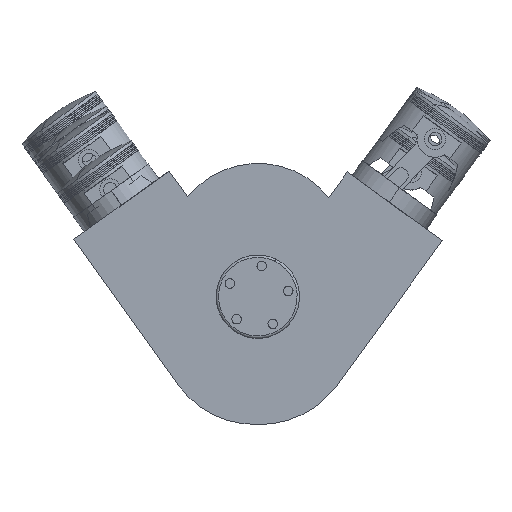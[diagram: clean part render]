
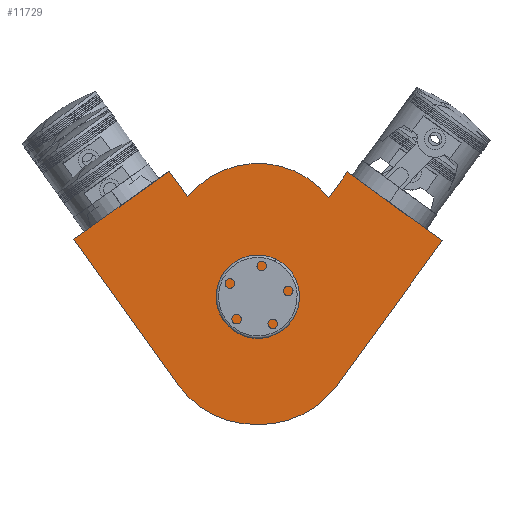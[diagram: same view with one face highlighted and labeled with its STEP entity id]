
A CAD part, front view. The second image highlights one B-rep face of the part: STEP entity #11729.
In plain terms, the highlighted planar face has unit normal (0, -1, 0).
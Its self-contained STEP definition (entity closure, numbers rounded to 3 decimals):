
#10307=CARTESIAN_POINT('Vertex',(111.441,-86.,154.597)) ;
#10312=CARTESIAN_POINT('Line Origine',(140.248,-86.,114.711)) ;
#10316=CARTESIAN_POINT('Vertex',(169.055,-86.,74.824)) ;
#11381=CARTESIAN_POINT('Vertex',(83.97,-86.,0.)) ;
#11384=CARTESIAN_POINT('Axis2P3D Location',(63.97,-86.,0.)) ;
#11388=CARTESIAN_POINT('Vertex',(43.97,-86.,0.)) ;
#11408=CARTESIAN_POINT('Axis2P3D Location',(63.97,-86.,0.)) ;
#11429=CARTESIAN_POINT('Vertex',(169.055,-86.,-74.824)) ;
#11434=CARTESIAN_POINT('Line Origine',(140.248,-86.,-114.711)) ;
#11438=CARTESIAN_POINT('Vertex',(111.441,-86.,-154.597)) ;
#11527=CARTESIAN_POINT('Vertex',(147.424,-86.,-59.202)) ;
#11532=CARTESIAN_POINT('Line Origine',(158.24,-86.,-67.013)) ;
#11558=CARTESIAN_POINT('Vertex',(147.424,-86.,59.202)) ;
#11563=CARTESIAN_POINT('Axis2P3D Location',(99.784,-86.,0.)) ;
#11585=CARTESIAN_POINT('Line Origine',(158.24,-86.,67.013)) ;
#11607=CARTESIAN_POINT('Line Origine',(50.64,-86.,-110.686)) ;
#11611=CARTESIAN_POINT('Vertex',(-10.161,-86.,-66.774)) ;
#11682=CARTESIAN_POINT('Vertex',(-10.161,-86.,66.774)) ;
#11685=CARTESIAN_POINT('Line Origine',(50.64,-86.,110.686)) ;
#11697=CARTESIAN_POINT('Axis2P3D Location',(0.,-86.,0.)) ;
#11702=CARTESIAN_POINT('Axis2P3D Location',(36.678,-86.,-1.919)) ;
#11706=CARTESIAN_POINT('Vertex',(-43.299,-86.,0.)) ;
#11709=CARTESIAN_POINT('Axis2P3D Location',(36.678,-86.,1.919)) ;
#10313=DIRECTION('Vector Direction',(0.585,0.,-0.811)) ;
#11385=DIRECTION('Axis2P3D Direction',(0.,1.,0.)) ;
#11409=DIRECTION('Axis2P3D Direction',(0.,1.,0.)) ;
#11435=DIRECTION('Vector Direction',(0.585,0.,0.811)) ;
#11533=DIRECTION('Vector Direction',(-0.811,0.,0.585)) ;
#11564=DIRECTION('Axis2P3D Direction',(0.,1.,0.)) ;
#11586=DIRECTION('Vector Direction',(-0.811,0.,-0.585)) ;
#11608=DIRECTION('Vector Direction',(0.811,0.,-0.585)) ;
#11686=DIRECTION('Vector Direction',(0.811,0.,0.585)) ;
#11698=DIRECTION('Axis2P3D Direction',(0.,1.,-0.)) ;
#11699=DIRECTION('Axis2P3D XDirection',(-1.,0.,0.)) ;
#11703=DIRECTION('Axis2P3D Direction',(0.,1.,-0.)) ;
#11710=DIRECTION('Axis2P3D Direction',(0.,1.,-0.)) ;
#11386=AXIS2_PLACEMENT_3D('Circle Axis2P3D',#11384,#11385,$) ;
#11410=AXIS2_PLACEMENT_3D('Circle Axis2P3D',#11408,#11409,$) ;
#11565=AXIS2_PLACEMENT_3D('Circle Axis2P3D',#11563,#11564,$) ;
#11700=AXIS2_PLACEMENT_3D('Plane Axis2P3D',#11697,#11698,#11699) ;
#11704=AXIS2_PLACEMENT_3D('Circle Axis2P3D',#11702,#11703,$) ;
#11711=AXIS2_PLACEMENT_3D('Circle Axis2P3D',#11709,#11710,$) ;
#11715=ORIENTED_EDGE('',*,*,#11708,.F.) ;
#11716=ORIENTED_EDGE('',*,*,#11613,.F.) ;
#11717=ORIENTED_EDGE('',*,*,#11440,.F.) ;
#11718=ORIENTED_EDGE('',*,*,#11536,.F.) ;
#11719=ORIENTED_EDGE('',*,*,#11567,.F.) ;
#11720=ORIENTED_EDGE('',*,*,#11589,.F.) ;
#11721=ORIENTED_EDGE('',*,*,#10318,.F.) ;
#11722=ORIENTED_EDGE('',*,*,#11689,.F.) ;
#11723=ORIENTED_EDGE('',*,*,#11713,.F.) ;
#11726=ORIENTED_EDGE('',*,*,#11390,.T.) ;
#11727=ORIENTED_EDGE('',*,*,#11412,.T.) ;
#11728=FACE_BOUND('',#11725,.T.) ;
#10314=VECTOR('Line Direction',#10313,1.) ;
#11436=VECTOR('Line Direction',#11435,1.) ;
#11534=VECTOR('Line Direction',#11533,1.) ;
#11587=VECTOR('Line Direction',#11586,1.) ;
#11609=VECTOR('Line Direction',#11608,1.) ;
#11687=VECTOR('Line Direction',#11686,1.) ;
#11729=ADVANCED_FACE('PartBody',(#11724,#11728),#11701,.F.) ;
#11387=CIRCLE('generated circle',#11386,20.) ;
#11411=CIRCLE('generated circle',#11410,20.) ;
#11566=CIRCLE('generated circle',#11565,75.99) ;
#11705=CIRCLE('generated circle',#11704,80.) ;
#11712=CIRCLE('generated circle',#11711,80.) ;
#10318=EDGE_CURVE('',#10308,#10317,#10315,.T.) ;
#11390=EDGE_CURVE('',#11389,#11382,#11387,.T.) ;
#11412=EDGE_CURVE('',#11382,#11389,#11411,.T.) ;
#11440=EDGE_CURVE('',#11430,#11439,#11437,.F.) ;
#11536=EDGE_CURVE('',#11528,#11430,#11535,.F.) ;
#11567=EDGE_CURVE('',#11559,#11528,#11566,.T.) ;
#11589=EDGE_CURVE('',#10317,#11559,#11588,.T.) ;
#11613=EDGE_CURVE('',#11439,#11612,#11610,.F.) ;
#11689=EDGE_CURVE('',#11683,#10308,#11688,.T.) ;
#11708=EDGE_CURVE('',#11612,#11707,#11705,.T.) ;
#11713=EDGE_CURVE('',#11707,#11683,#11712,.T.) ;
#11714=EDGE_LOOP('',(#11715,#11716,#11717,#11718,#11719,#11720,#11721,#11722,#11723)) ;
#11725=EDGE_LOOP('',(#11726,#11727)) ;
#11724=FACE_OUTER_BOUND('',#11714,.T.) ;
#10315=LINE('Line',#10312,#10314) ;
#11437=LINE('Line',#11434,#11436) ;
#11535=LINE('Line',#11532,#11534) ;
#11588=LINE('Line',#11585,#11587) ;
#11610=LINE('Line',#11607,#11609) ;
#11688=LINE('Line',#11685,#11687) ;
#11701=PLANE('Plane',#11700) ;
#10308=VERTEX_POINT('',#10307) ;
#10317=VERTEX_POINT('',#10316) ;
#11382=VERTEX_POINT('',#11381) ;
#11389=VERTEX_POINT('',#11388) ;
#11430=VERTEX_POINT('',#11429) ;
#11439=VERTEX_POINT('',#11438) ;
#11528=VERTEX_POINT('',#11527) ;
#11559=VERTEX_POINT('',#11558) ;
#11612=VERTEX_POINT('',#11611) ;
#11683=VERTEX_POINT('',#11682) ;
#11707=VERTEX_POINT('',#11706) ;
